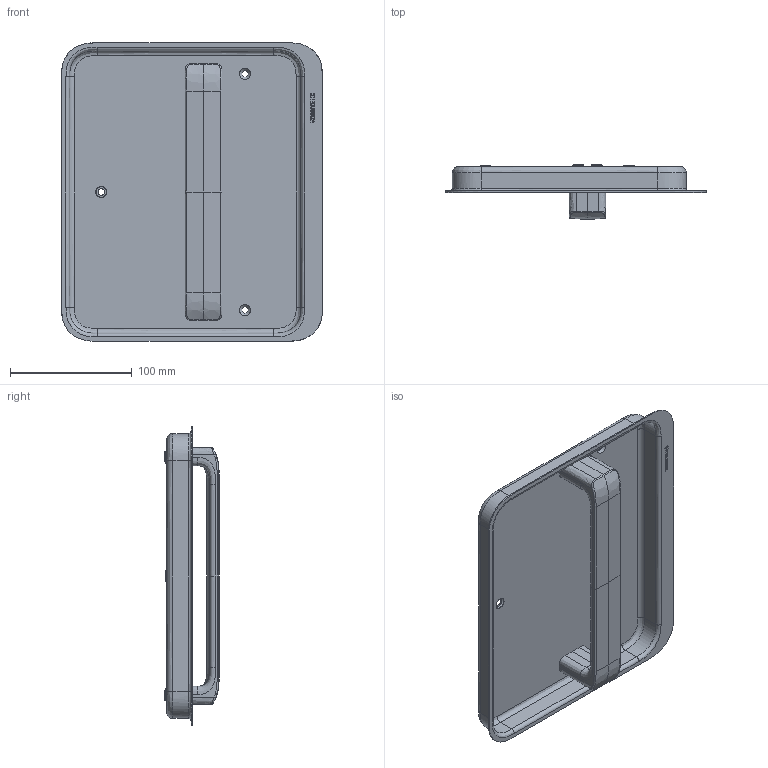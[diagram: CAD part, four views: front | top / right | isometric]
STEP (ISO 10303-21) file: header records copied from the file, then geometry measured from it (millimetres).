
FILE_DESCRIPTION(/* description */ (''),/* implementation_level */ '2;1');
FILE_NAME(/* name */ 'C:\ADSK_DMS_WS\Designs\Vorschläge\Loc Schalen\Heusser Muschel\Heusser-Muschel mit D6\Heusser-Muschel S9.20 mit D6\S9.20.D6.0L.stp',/* time_stamp */ '2025-04-30T07:29:32+02:00',/* author */ ('gm'),/* organization */ (''),/* preprocessor_version */ 'ST-DEVELOPER v17.2',/* originating_system */ 'Autodesk Inventor 2019',/* authorisation */ '');
FILE_SCHEMA (('AUTOMOTIVE_DESIGN { 1 0 10303 214 3 1 1 }'));
Length unit declared in the file: millimetre
Products named in the file (1): S9.20.D6.0L
Bounding box: 214 x 44.5 x 245 mm (x, y, z)
Volume: 147547.9 mm3; surface area: 152289.1 mm2
Topology: 1 solids, 9 shells, 395 faces, 1024 edges, 662 vertices
Faces by surface type: bspline 148, plane 129, cylinder 64, cone 50, torus 4
Full cylindrical faces by diameter (mm): 4.134 x4, 5 x4, 5.5 x4, 9 x4
Entity records: 24206 total; most frequent: CARTESIAN_POINT 15258, ORIENTED_EDGE 2032, DIRECTION 1233, EDGE_CURVE 1016, VERTEX_POINT 662, LINE 473, VECTOR 473, EDGE_LOOP 434
